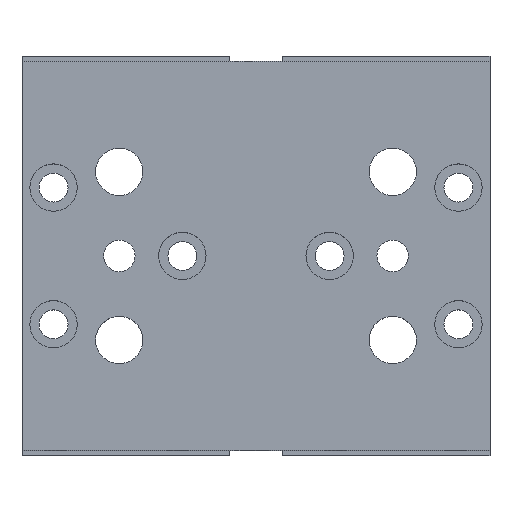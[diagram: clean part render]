
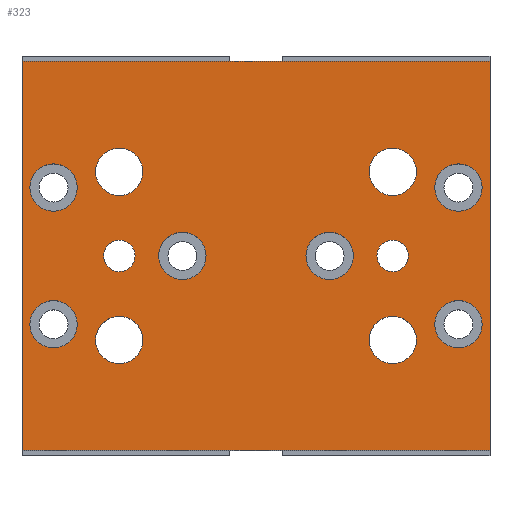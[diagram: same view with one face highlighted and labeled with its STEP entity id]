
A CAD part, top view. The second image highlights one B-rep face of the part: STEP entity #323.
In plain terms, the highlighted planar face has unit normal (0, 0, 1).
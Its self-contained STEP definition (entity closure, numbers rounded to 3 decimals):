
#323=ADVANCED_FACE('',(#1089,#1091,#1093,#1095,#1097,#1099,#1101,#1103,#1105,#1107,
#1109,#1111,#1113),#1115,.T.);
#1089=FACE_BOUND('',#1090,.T.);
#1090=EDGE_LOOP('',(#1691,#1692,#1693,#1694));
#1091=FACE_BOUND('',#1092,.T.);
#1092=EDGE_LOOP('',(#1695));
#1093=FACE_BOUND('',#1094,.T.);
#1094=EDGE_LOOP('',(#1696));
#1095=FACE_BOUND('',#1096,.T.);
#1096=EDGE_LOOP('',(#1697));
#1097=FACE_BOUND('',#1098,.T.);
#1098=EDGE_LOOP('',(#1698));
#1099=FACE_BOUND('',#1100,.T.);
#1100=EDGE_LOOP('',(#1699));
#1101=FACE_BOUND('',#1102,.T.);
#1102=EDGE_LOOP('',(#1700));
#1103=FACE_BOUND('',#1104,.T.);
#1104=EDGE_LOOP('',(#1701));
#1105=FACE_BOUND('',#1106,.T.);
#1106=EDGE_LOOP('',(#1702));
#1107=FACE_BOUND('',#1108,.T.);
#1108=EDGE_LOOP('',(#1703));
#1109=FACE_BOUND('',#1110,.T.);
#1110=EDGE_LOOP('',(#1704));
#1111=FACE_BOUND('',#1112,.T.);
#1112=EDGE_LOOP('',(#1705));
#1113=FACE_BOUND('',#1114,.T.);
#1114=EDGE_LOOP('',(#1706));
#1115=PLANE('',#1116);
#1116=AXIS2_PLACEMENT_3D('',#1117,#1118,#1119);
#1117=CARTESIAN_POINT('',(-44.5,74.,5.));
#1118=DIRECTION('',(0.,0.,1.));
#1119=DIRECTION('',(0.,-1.,0.));
#1691=ORIENTED_EDGE('',*,*,#1840,.T.);
#1692=ORIENTED_EDGE('',*,*,#1876,.T.);
#1693=ORIENTED_EDGE('',*,*,#1864,.F.);
#1694=ORIENTED_EDGE('',*,*,#1849,.F.);
#1695=ORIENTED_EDGE('',*,*,#1894,.T.);
#1696=ORIENTED_EDGE('',*,*,#1895,.T.);
#1697=ORIENTED_EDGE('',*,*,#1896,.T.);
#1698=ORIENTED_EDGE('',*,*,#1897,.T.);
#1699=ORIENTED_EDGE('',*,*,#1898,.T.);
#1700=ORIENTED_EDGE('',*,*,#1899,.T.);
#1701=ORIENTED_EDGE('',*,*,#1888,.T.);
#1702=ORIENTED_EDGE('',*,*,#1889,.T.);
#1703=ORIENTED_EDGE('',*,*,#1890,.T.);
#1704=ORIENTED_EDGE('',*,*,#1891,.T.);
#1705=ORIENTED_EDGE('',*,*,#1892,.T.);
#1706=ORIENTED_EDGE('',*,*,#1893,.T.);
#1840=EDGE_CURVE('',#2002,#2000,#2003,.T.);
#1849=EDGE_CURVE('',#2002,#2017,#2018,.T.);
#1864=EDGE_CURVE('',#2017,#2042,#2043,.T.);
#1876=EDGE_CURVE('',#2000,#2042,#2061,.T.);
#1888=EDGE_CURVE('',#2084,#2084,#2085,.F.);
#1889=EDGE_CURVE('',#2086,#2086,#2087,.F.);
#1890=EDGE_CURVE('',#2088,#2088,#2089,.F.);
#1891=EDGE_CURVE('',#2090,#2090,#2091,.F.);
#1892=EDGE_CURVE('',#2092,#2092,#2093,.F.);
#1893=EDGE_CURVE('',#2094,#2094,#2095,.F.);
#1894=EDGE_CURVE('',#2096,#2096,#2097,.F.);
#1895=EDGE_CURVE('',#2098,#2098,#2099,.F.);
#1896=EDGE_CURVE('',#2100,#2100,#2101,.F.);
#1897=EDGE_CURVE('',#2102,#2102,#2103,.F.);
#1898=EDGE_CURVE('',#2104,#2104,#2105,.F.);
#1899=EDGE_CURVE('',#2106,#2106,#2107,.F.);
#2000=VERTEX_POINT('',#2327);
#2002=VERTEX_POINT('',#2331);
#2003=LINE('',#2332,#2333);
#2017=VERTEX_POINT('',#2366);
#2018=LINE('',#2367,#2368);
#2042=VERTEX_POINT('',#2426);
#2043=LINE('',#2427,#2428);
#2061=LINE('',#2471,#2472);
#2084=VERTEX_POINT('',#2529);
#2085=CIRCLE('',#2530,3.);
#2086=VERTEX_POINT('',#2534);
#2087=CIRCLE('',#2535,3.);
#2088=VERTEX_POINT('',#2539);
#2089=CIRCLE('',#2540,4.5);
#2090=VERTEX_POINT('',#2544);
#2091=CIRCLE('',#2545,4.5);
#2092=VERTEX_POINT('',#2549);
#2093=CIRCLE('',#2550,4.5);
#2094=VERTEX_POINT('',#2554);
#2095=CIRCLE('',#2555,4.5);
#2096=VERTEX_POINT('',#2559);
#2097=CIRCLE('',#2560,4.5);
#2098=VERTEX_POINT('',#2564);
#2099=CIRCLE('',#2565,4.5);
#2100=VERTEX_POINT('',#2569);
#2101=CIRCLE('',#2570,4.5);
#2102=VERTEX_POINT('',#2574);
#2103=CIRCLE('',#2575,4.5);
#2104=VERTEX_POINT('',#2579);
#2105=CIRCLE('',#2580,4.5);
#2106=VERTEX_POINT('',#2584);
#2107=CIRCLE('',#2585,4.5);
#2327=CARTESIAN_POINT('',(-44.5,0.,5.));
#2331=CARTESIAN_POINT('',(-44.5,74.,5.));
#2332=CARTESIAN_POINT('',(-44.5,74.,5.));
#2333=VECTOR('',#2334,1.);
#2334=DIRECTION('',(0.,-1.,0.));
#2366=CARTESIAN_POINT('',(44.5,74.,5.));
#2367=CARTESIAN_POINT('',(-44.5,74.,5.));
#2368=VECTOR('',#2369,1.);
#2369=DIRECTION('',(1.,0.,0.));
#2426=CARTESIAN_POINT('',(44.5,0.,5.));
#2427=CARTESIAN_POINT('',(44.5,74.,5.));
#2428=VECTOR('',#2429,1.);
#2429=DIRECTION('',(0.,-1.,0.));
#2471=CARTESIAN_POINT('',(-44.5,0.,5.));
#2472=VECTOR('',#2473,1.);
#2473=DIRECTION('',(1.,0.,0.));
#2529=CARTESIAN_POINT('',(29.,37.,5.));
#2530=AXIS2_PLACEMENT_3D('',#2531,#2532,#2533);
#2531=CARTESIAN_POINT('',(26.,37.,5.));
#2532=DIRECTION('',(0.,0.,1.));
#2533=DIRECTION('',(1.,0.,0.));
#2534=CARTESIAN_POINT('',(-23.,37.,5.));
#2535=AXIS2_PLACEMENT_3D('',#2536,#2537,#2538);
#2536=CARTESIAN_POINT('',(-26.,37.,5.));
#2537=DIRECTION('',(0.,0.,1.));
#2538=DIRECTION('',(1.,0.,0.));
#2539=CARTESIAN_POINT('',(-21.5,53.,5.));
#2540=AXIS2_PLACEMENT_3D('',#2541,#2542,#2543);
#2541=CARTESIAN_POINT('',(-26.,53.,5.));
#2542=DIRECTION('',(0.,0.,1.));
#2543=DIRECTION('',(1.,0.,0.));
#2544=CARTESIAN_POINT('',(-21.5,21.,5.));
#2545=AXIS2_PLACEMENT_3D('',#2546,#2547,#2548);
#2546=CARTESIAN_POINT('',(-26.,21.,5.));
#2547=DIRECTION('',(0.,0.,1.));
#2548=DIRECTION('',(1.,0.,0.));
#2549=CARTESIAN_POINT('',(30.5,53.,5.));
#2550=AXIS2_PLACEMENT_3D('',#2551,#2552,#2553);
#2551=CARTESIAN_POINT('',(26.,53.,5.));
#2552=DIRECTION('',(0.,0.,1.));
#2553=DIRECTION('',(1.,0.,0.));
#2554=CARTESIAN_POINT('',(30.5,21.,5.));
#2555=AXIS2_PLACEMENT_3D('',#2556,#2557,#2558);
#2556=CARTESIAN_POINT('',(26.,21.,5.));
#2557=DIRECTION('',(0.,0.,1.));
#2558=DIRECTION('',(1.,0.,0.));
#2559=CARTESIAN_POINT('',(-34.,50.,5.));
#2560=AXIS2_PLACEMENT_3D('',#2561,#2562,#2563);
#2561=CARTESIAN_POINT('',(-38.5,50.,5.));
#2562=DIRECTION('',(0.,0.,1.));
#2563=DIRECTION('',(1.,0.,0.));
#2564=CARTESIAN_POINT('',(-9.5,37.,5.));
#2565=AXIS2_PLACEMENT_3D('',#2566,#2567,#2568);
#2566=CARTESIAN_POINT('',(-14.,37.,5.));
#2567=DIRECTION('',(0.,0.,1.));
#2568=DIRECTION('',(1.,0.,0.));
#2569=CARTESIAN_POINT('',(-34.,24.,5.));
#2570=AXIS2_PLACEMENT_3D('',#2571,#2572,#2573);
#2571=CARTESIAN_POINT('',(-38.5,24.,5.));
#2572=DIRECTION('',(0.,0.,1.));
#2573=DIRECTION('',(1.,0.,0.));
#2574=CARTESIAN_POINT('',(18.5,37.,5.));
#2575=AXIS2_PLACEMENT_3D('',#2576,#2577,#2578);
#2576=CARTESIAN_POINT('',(14.,37.,5.));
#2577=DIRECTION('',(0.,0.,1.));
#2578=DIRECTION('',(1.,0.,0.));
#2579=CARTESIAN_POINT('',(43.,50.,5.));
#2580=AXIS2_PLACEMENT_3D('',#2581,#2582,#2583);
#2581=CARTESIAN_POINT('',(38.5,50.,5.));
#2582=DIRECTION('',(0.,0.,1.));
#2583=DIRECTION('',(1.,0.,0.));
#2584=CARTESIAN_POINT('',(43.,24.,5.));
#2585=AXIS2_PLACEMENT_3D('',#2586,#2587,#2588);
#2586=CARTESIAN_POINT('',(38.5,24.,5.));
#2587=DIRECTION('',(0.,0.,1.));
#2588=DIRECTION('',(1.,0.,0.));
